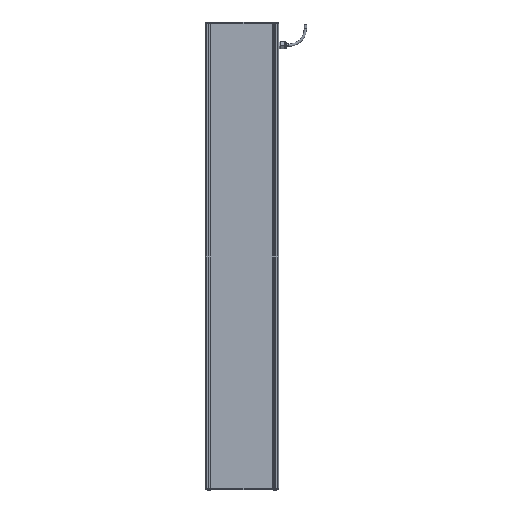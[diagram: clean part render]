
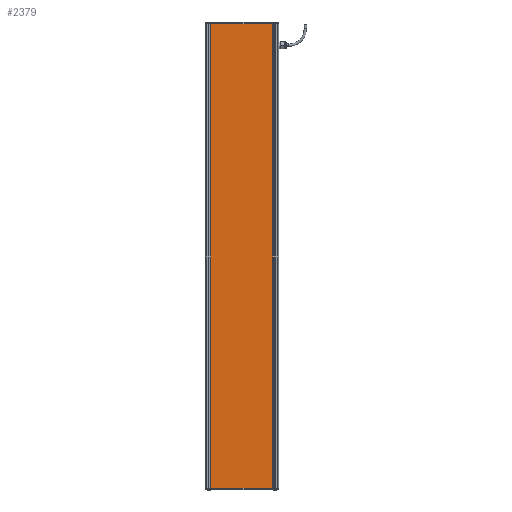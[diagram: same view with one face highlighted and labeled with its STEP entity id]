
A CAD part, front view. The second image highlights one B-rep face of the part: STEP entity #2379.
In plain terms, the highlighted planar face has unit normal (0, -1, 0) as drawn and (0, 0, 1) by its records, which use the part's own axes.
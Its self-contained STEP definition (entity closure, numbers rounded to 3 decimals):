
#195 = DIRECTION ( 'NONE',  ( 0., -1., 0. ) ) ;
#217 = LINE ( 'NONE', #11089, #8487 ) ;
#585 = ORIENTED_EDGE ( 'NONE', *, *, #4696, .T. ) ;
#639 = DIRECTION ( 'NONE',  ( 0., 1., 0. ) ) ;
#811 = DIRECTION ( 'NONE',  ( 0., 0., -1. ) ) ;
#1075 = LINE ( 'NONE', #11879, #4087 ) ;
#1361 = CARTESIAN_POINT ( 'NONE',  ( -209., 0., 0. ) ) ;
#2133 = PLANE ( 'NONE',  #11496 ) ;
#2379 = ADVANCED_FACE ( 'NONE', ( #3162 ), #2133, .F. ) ;
#2770 = EDGE_CURVE ( 'NONE', #14511, #3260, #217, .T. ) ;
#2915 = EDGE_LOOP ( 'NONE', ( #585, #14764, #5145, #5202 ) ) ;
#3003 = LINE ( 'NONE', #11506, #5688 ) ;
#3162 = FACE_OUTER_BOUND ( 'NONE', #2915, .T. ) ;
#3260 = VERTEX_POINT ( 'NONE', #4379 ) ;
#3765 = CARTESIAN_POINT ( 'NONE',  ( -209., 0., 0. ) ) ;
#4087 = VECTOR ( 'NONE', #13139, 1000. ) ;
#4327 = CARTESIAN_POINT ( 'NONE',  ( -9., 0., 0. ) ) ;
#4379 = CARTESIAN_POINT ( 'NONE',  ( -9., -1500., 0. ) ) ;
#4609 = CARTESIAN_POINT ( 'NONE',  ( -209., -1500., 0. ) ) ;
#4696 = EDGE_CURVE ( 'NONE', #3260, #7554, #3003, .T. ) ;
#5145 = ORIENTED_EDGE ( 'NONE', *, *, #8458, .T. ) ;
#5202 = ORIENTED_EDGE ( 'NONE', *, *, #2770, .T. ) ;
#5688 = VECTOR ( 'NONE', #639, 1000. ) ;
#6761 = VECTOR ( 'NONE', #195, 1000. ) ;
#6915 = EDGE_CURVE ( 'NONE', #7554, #15469, #1075, .T. ) ;
#7166 = DIRECTION ( 'NONE',  ( 1., 0., 0. ) ) ;
#7554 = VERTEX_POINT ( 'NONE', #4327 ) ;
#8458 = EDGE_CURVE ( 'NONE', #15469, #14511, #12410, .T. ) ;
#8487 = VECTOR ( 'NONE', #7166, 1000. ) ;
#11089 = CARTESIAN_POINT ( 'NONE',  ( -9., -1500., 0. ) ) ;
#11496 = AXIS2_PLACEMENT_3D ( 'NONE', #12639, #811, #13814 ) ;
#11506 = CARTESIAN_POINT ( 'NONE',  ( -9., 0., 0. ) ) ;
#11879 = CARTESIAN_POINT ( 'NONE',  ( -9., 0., 0. ) ) ;
#12410 = LINE ( 'NONE', #1361, #6761 ) ;
#12639 = CARTESIAN_POINT ( 'NONE',  ( 0., 0., 0. ) ) ;
#13139 = DIRECTION ( 'NONE',  ( -1., 0., 0. ) ) ;
#13814 = DIRECTION ( 'NONE',  ( -1., 0., 0. ) ) ;
#14511 = VERTEX_POINT ( 'NONE', #4609 ) ;
#14764 = ORIENTED_EDGE ( 'NONE', *, *, #6915, .T. ) ;
#15469 = VERTEX_POINT ( 'NONE', #3765 ) ;
